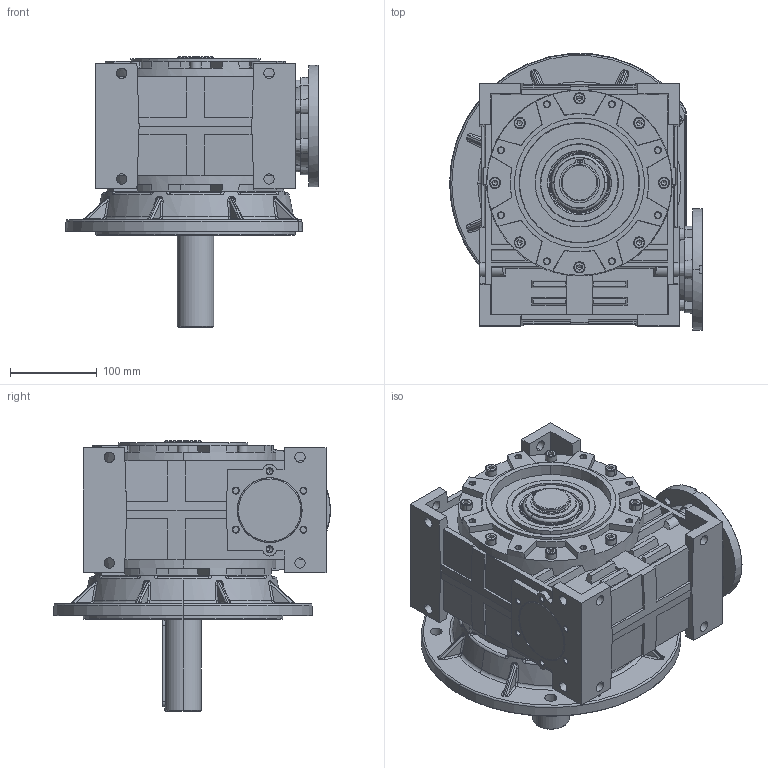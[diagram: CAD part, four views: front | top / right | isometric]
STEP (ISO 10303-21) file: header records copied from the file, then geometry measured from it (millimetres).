
FILE_DESCRIPTION (( 'STEP AP203' ), '1' );
FILE_NAME ('MR-100_140-24-K300_1-WJ_1-3D.STEP', '2023-09-29T07:09:07', ( '' ), ( '' ), 'SwSTEP 2.0', 'SolidWorks 2022', '' );
FILE_SCHEMA (( 'CONFIG_CONTROL_DESIGN' ));
Length unit declared in the file: millimetre
Products named in the file (1): MR-100_140-24-K300_1-WJ_1-3D
Bounding box: 291.87 x 319.67 x 312 mm (x, y, z)
Volume: 8818182.6 mm3; surface area: 633884.2 mm2
Topology: 1 solids, 34 shells, 2481 faces, 6016 edges, 3649 vertices
Faces by surface type: plane 949, cylinder 466, bspline 412, cone 389, torus 229, sphere 36
Entity records: 91003 total; most frequent: CARTESIAN_POINT 35773, ORIENTED_EDGE 11888, DIRECTION 11155, EDGE_CURVE 5944, AXIS2_PLACEMENT_3D 4434, VERTEX_POINT 3649, EDGE_LOOP 2685, ADVANCED_FACE 2481
